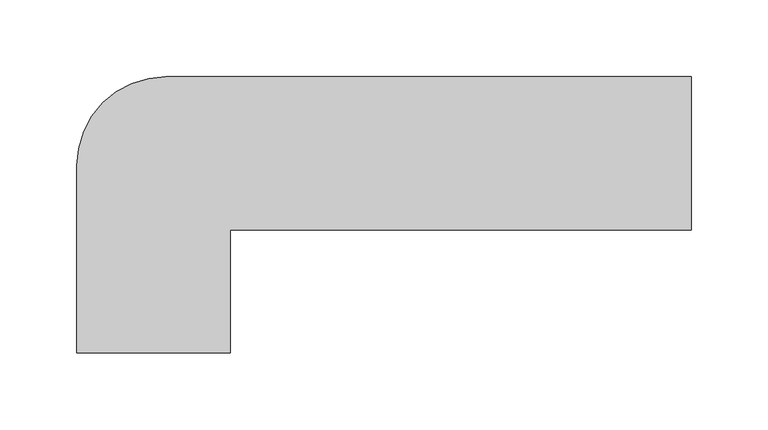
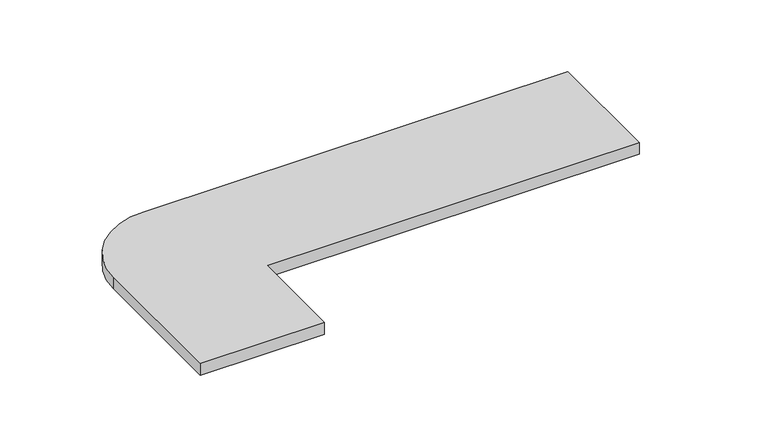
"""IFC4 building model written with IfcOpenShell, lengths in millimetres: proxy geometry, Zanquin Recto 42.3x17.5 : Exagres_Milan_Arena_Zanquin_Rect_Izq."""

from ifc_helpers import new_model, si_unit, point, frame_2d, origin, origin_with_axes, place, context, project, spatial, polyline, circle_curve, trimmed, segment, composite_curve, outline, extrude, source, transform, mapped, element, save


def generic_models_5bab8272(model_context):
    return source(origin(), model_context, "Body", "SweptSolid", [
        extrude(outline(composite_curve([segment(polyline([(300.0, 0.0), (0.0, 0.0), (0.0, -80.0), (-100.0, -80.0), (-100.0, 42.0)]), True, "CONTINUOUS"), segment(trimmed(circle_curve(frame_2d((-42.0, 42.0)), 58.0), [point((-100.0, 42.0))], [point((-42.0, 100.0))], False, "CARTESIAN"), True, "CONTINUOUS"), segment(polyline([(-42.0, 100.0), (300.0, 100.0), (300.0, 0.0)]), True, "CONTINUOUS")], self_intersect=False)), origin_with_axes(), (0.0, 0.0, 1.0), 10.0),
    ])


if __name__ == "__main__":
    model = new_model("IFC4")
    model_context = context("Model", 3, world=origin())
    ifc_project = project(units=[si_unit("LENGTHUNIT", "METRE", prefix="MILLI")], contexts=[model_context])
    site = spatial("IfcSite", under=ifc_project)
    building = spatial("IfcBuilding", under=site)
    placement = place(None, origin())
    generic_models_shape = generic_models_5bab8272(model_context)
    element("IfcBuildingElementProxy", 1, Name="Zanquin Recto 42.3x17.5 : Exagres_Milan_Arena_Zanquin_Rect_Izq", ObjectType="Zanquin Recto 42.3x17.5 : Exagres_Milan_Arena_Zanquin_Rect_Izq", at=placement, inside=building, context=model_context, shape_type="MappedRepresentation", body=[
        mapped(generic_models_shape, transform((0.0, 0.0, 0.0), x_axis=(1.0, 0.0, 0.0), y_axis=(0.0, 1.0, 0.0), z_axis=(0.0, 0.0, 1.0))),
    ])
    save(model, "model.ifc")
